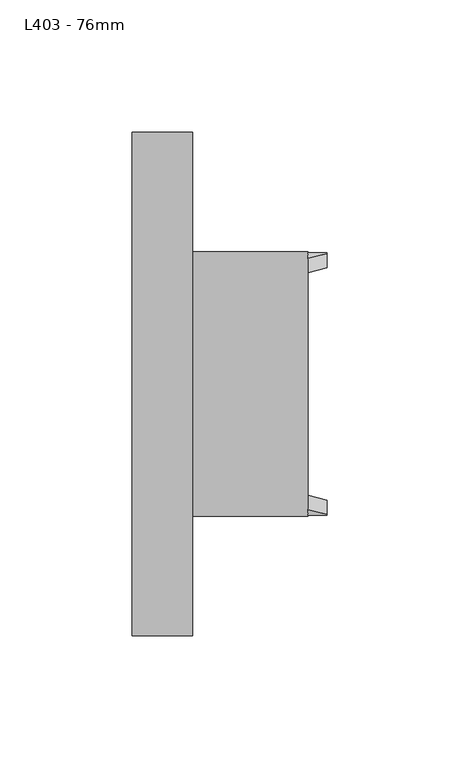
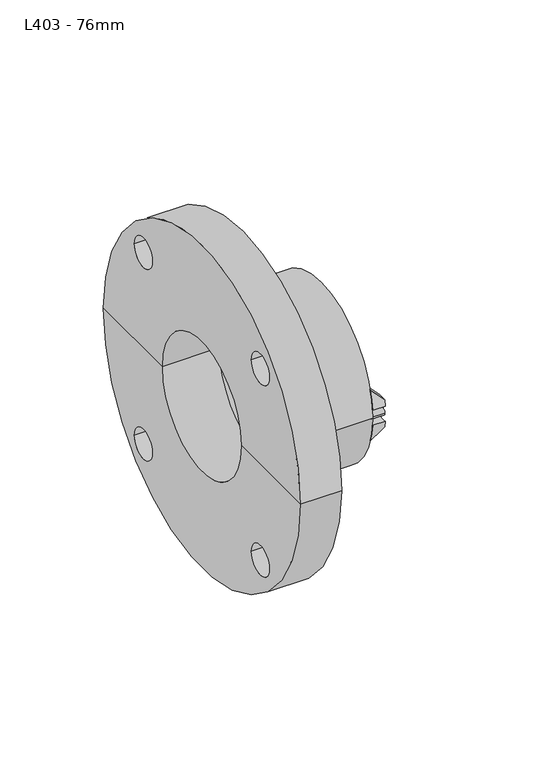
"""IFC4 building model written with IfcOpenShell, lengths in millimetres: pipe fitting geometry, Durapipe_PipeFitting_VulcatheneEnfusion_Flange_L40 : L403 - 76mm."""

from ifc_helpers import new_model, si_unit, point, frame, frame_2d, origin, place, context, project, spatial, polyline, circle_curve, ellipse_curve, trimmed, segment, composite_curve, outline, extrude, source, transform, mapped, element, save
from ifc_brep_helpers import plane_surface, cylinder_surface, revolved_surface, advanced_brep


def l403_76mm_9551e2b0(model_context):
    return source(origin(), model_context, "Body", "SolidModel", [
        advanced_brep(
        [(40.45, -44.5544662, -4.1787611), (40.45, -49.6544662, -4.410951), (40.45, -49.2136048, -7.94), (40.45, -44.0399693, -7.94), (33.35, -47.5396939, -15.0), (33.35, -49.6544662, -4.410951), (33.35, -44.5544662, -4.1787611), (33.35, -42.1611492, -15.0)],
        [
            (0, 1, circle_curve(frame((40.45, -47.3, 0.0), z_axis=(-1.0, 0.0, 0.0), x_axis=(0.0, 1.0, 0.0)), 5.0)),
            (1, 2, circle_curve(frame((40.45, 0.0, 0.0), z_axis=(1.0, 0.0, 0.0), x_axis=(0.0, 1.0, 0.0)), 49.85)),
            (2, 3),
            (3, 0, circle_curve(frame((40.45, 0.0, 0.0), z_axis=(-1.0, 0.0, 0.0), x_axis=(0.0, 1.0, 0.0)), 44.75)),
            (4, 5, circle_curve(frame((33.35, 0.0, 0.0), z_axis=(-1.0, 0.0, 0.0), x_axis=(0.0, 1.0, 0.0)), 49.85)),
            (5, 6, circle_curve(frame((33.35, -47.3, 0.0), z_axis=(1.0, 0.0, 0.0), x_axis=(0.0, 1.0, 0.0)), 5.0)),
            (6, 7, circle_curve(frame((33.35, 0.0, 0.0), z_axis=(1.0, 0.0, 0.0), x_axis=(0.0, 1.0, 0.0)), 44.75)),
            (7, 4),
            (6, 0),
            (3, 7, ellipse_curve(frame((48.4349858, 0.0, 0.0), z_axis=(0.7051064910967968, 0.0, -0.7091014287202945), x_axis=(-0.7091014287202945, 0.0, -0.7051064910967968)), 63.4655908, 44.75)),
            (4, 2, ellipse_curve(frame((48.4349858, 0.0, 0.0), z_axis=(-0.7051064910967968, 0.0, 0.7091014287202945), x_axis=(0.7091014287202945, 0.0, 0.7051064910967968)), 70.6985408, 49.85)),
            (1, 5),
        ],
        [
            plane_surface(frame((40.45, -47.5396939, -15.0), z_axis=(1.0, 0.0, 0.0), x_axis=(0.0, 1.0, 0.0))),
            plane_surface(frame((33.35, -47.5396939, -15.0), z_axis=(-1.0, 0.0, 0.0), x_axis=(0.0, -1.0, 0.0))),
            revolved_surface(polyline([(3.431444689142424, 44.75, 0.0), (93.43852691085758, 44.75, 0.0)]), (33.35, 0.0, 0.0), (-1.0, 0.0, 0.0)),
            cylinder_surface(frame((33.35, 0.0, 0.0), z_axis=(1.0, 0.0, 0.0), x_axis=(0.0, 1.0, 0.0)), 49.85),
            revolved_surface(polyline([(40.45, -42.3, 0.0), (33.35, -42.3, 0.0)]), (33.35, -47.3, 0.0), (1.0, 0.0, 0.0)),
            plane_surface(frame((33.35, 49.85, -15.0), z_axis=(0.7051064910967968, 0.0, -0.7091014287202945), x_axis=(0.0, -1.0, 0.0))),
        ],
        [
            (0, [[1, 2, 3, 4]]),
            (1, [[5, 6, 7, 8]]),
            (2, [[-7, 9, -4, 10]]),
            (3, [[-5, 11, -2, 12]]),
            (4, [[-1, -9, -6, -12]]),
            (5, [[-3, -11, -8, -10]]),
        ],
    ),
        advanced_brep(
        [(40.45, -49.6544662, 4.410951), (40.45, -44.5544662, 4.1787611), (40.45, -44.0399693, 7.94), (40.45, -49.2136048, 7.94), (33.35, -49.6544662, 4.410951), (33.35, -47.5396939, 15.0), (33.35, -42.1611492, 15.0), (33.35, -44.5544662, 4.1787611)],
        [
            (0, 1, circle_curve(frame((40.45, -47.3, 0.0), z_axis=(-1.0, 0.0, 0.0), x_axis=(0.0, 1.0, 0.0)), 5.0)),
            (1, 2, circle_curve(frame((40.45, 0.0, 0.0), z_axis=(-1.0, 0.0, 0.0), x_axis=(0.0, 1.0, 0.0)), 44.75)),
            (2, 3),
            (3, 0, circle_curve(frame((40.45, 0.0, 0.0), z_axis=(1.0, 0.0, 0.0), x_axis=(0.0, 1.0, 0.0)), 49.85)),
            (4, 5, circle_curve(frame((33.35, 0.0, 0.0), z_axis=(-1.0, 0.0, 0.0), x_axis=(0.0, 1.0, 0.0)), 49.85)),
            (5, 6),
            (6, 7, circle_curve(frame((33.35, 0.0, 0.0), z_axis=(1.0, 0.0, 0.0), x_axis=(0.0, 1.0, 0.0)), 44.75)),
            (7, 4, circle_curve(frame((33.35, -47.3, 0.0), z_axis=(1.0, 0.0, 0.0), x_axis=(0.0, 1.0, 0.0)), 5.0)),
            (6, 2, ellipse_curve(frame((48.4349858, 0.0, 0.0), z_axis=(0.7051064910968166, 0.0, 0.7091014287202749), x_axis=(-0.7091014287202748, 0.0, 0.7051064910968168)), 63.4655908, 44.75)),
            (1, 7),
            (4, 0),
            (3, 5, ellipse_curve(frame((48.4349858, 0.0, 0.0), z_axis=(-0.7051064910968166, 0.0, -0.7091014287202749), x_axis=(0.7091014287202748, 0.0, -0.7051064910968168)), 70.6985408, 49.85)),
        ],
        [
            plane_surface(frame((40.45, -47.5396939, -15.0), z_axis=(1.0, 0.0, 0.0), x_axis=(0.0, 1.0, 0.0))),
            plane_surface(frame((33.35, -47.5396939, -15.0), z_axis=(-1.0, 0.0, 0.0), x_axis=(0.0, -1.0, 0.0))),
            revolved_surface(polyline([(3.4314446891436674, 44.75, 0.0), (93.43852691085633, 44.75, 0.0)]), (33.35, 0.0, 0.0), (-1.0, 0.0, 0.0)),
            cylinder_surface(frame((33.35, 0.0, 0.0), z_axis=(1.0, 0.0, 0.0), x_axis=(0.0, 1.0, 0.0)), 49.85),
            revolved_surface(polyline([(40.45, -42.3, 0.0), (33.35, -42.3, 0.0)]), (33.35, -47.3, 0.0), (1.0, 0.0, 0.0)),
            plane_surface(frame((40.45, 49.85, 7.94), z_axis=(0.7051064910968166, 0.0, 0.7091014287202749), x_axis=(0.0, -1.0, 0.0))),
        ],
        [
            (0, [[1, 2, 3, 4]]),
            (1, [[5, 6, 7, 8]]),
            (2, [[-7, 9, -2, 10]]),
            (3, [[-5, 11, -4, 12]]),
            (4, [[-1, -11, -8, -10]]),
            (5, [[-3, -9, -6, -12]]),
        ],
    ),
        advanced_brep(
        [(40.45, 49.6544662, -4.410951), (40.45, 44.5544662, -4.1787611), (40.45, 44.0399693, -7.94), (40.45, 49.2136048, -7.94), (33.35, 49.6544662, -4.410951), (33.35, 47.5396939, -15.0), (33.35, 42.1611492, -15.0), (33.35, 44.5544662, -4.1787611)],
        [
            (0, 1, circle_curve(frame((40.45, 47.3, 0.0), z_axis=(-1.0, 0.0, 0.0), x_axis=(0.0, 1.0, 0.0)), 5.0)),
            (1, 2, circle_curve(frame((40.45, 0.0, 0.0), z_axis=(-1.0, 0.0, 0.0), x_axis=(0.0, 1.0, 0.0)), 44.75)),
            (2, 3),
            (3, 0, circle_curve(frame((40.45, 0.0, 0.0), z_axis=(1.0, 0.0, 0.0), x_axis=(0.0, 1.0, 0.0)), 49.85)),
            (4, 5, circle_curve(frame((33.35, 0.0, 0.0), z_axis=(-1.0, 0.0, 0.0), x_axis=(0.0, 1.0, 0.0)), 49.85)),
            (5, 6),
            (6, 7, circle_curve(frame((33.35, 0.0, 0.0), z_axis=(1.0, 0.0, 0.0), x_axis=(0.0, 1.0, 0.0)), 44.75)),
            (7, 4, circle_curve(frame((33.35, 47.3, 0.0), z_axis=(1.0, 0.0, 0.0), x_axis=(0.0, 1.0, 0.0)), 5.0)),
            (6, 2, ellipse_curve(frame((48.4349858, 0.0, 0.0), z_axis=(0.7051064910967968, 0.0, -0.7091014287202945), x_axis=(-0.7091014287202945, 0.0, -0.7051064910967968)), 63.4655908, 44.75)),
            (1, 7),
            (4, 0),
            (3, 5, ellipse_curve(frame((48.4349858, 0.0, 0.0), z_axis=(-0.7051064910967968, 0.0, 0.7091014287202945), x_axis=(0.7091014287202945, 0.0, 0.7051064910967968)), 70.6985408, 49.85)),
        ],
        [
            plane_surface(frame((40.45, -47.5396939, -15.0), z_axis=(1.0, 0.0, 0.0), x_axis=(0.0, 1.0, 0.0))),
            plane_surface(frame((33.35, -47.5396939, -15.0), z_axis=(-1.0, 0.0, 0.0), x_axis=(0.0, -1.0, 0.0))),
            revolved_surface(polyline([(3.431444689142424, 44.75, 0.0), (93.43852691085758, 44.75, 0.0)]), (33.35, 0.0, 0.0), (-1.0, 0.0, 0.0)),
            cylinder_surface(frame((33.35, 0.0, 0.0), z_axis=(1.0, 0.0, 0.0), x_axis=(0.0, 1.0, 0.0)), 49.85),
            revolved_surface(polyline([(40.45, 52.3, 0.0), (33.35, 52.3, 0.0)]), (33.35, 47.3, 0.0), (1.0, 0.0, 0.0)),
            plane_surface(frame((33.35, 49.85, -15.0), z_axis=(0.7051064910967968, 0.0, -0.7091014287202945), x_axis=(0.0, -1.0, 0.0))),
        ],
        [
            (0, [[1, 2, 3, 4]]),
            (1, [[5, 6, 7, 8]]),
            (2, [[-7, 9, -2, 10]]),
            (3, [[-5, 11, -4, 12]]),
            (4, [[-1, -11, -8, -10]]),
            (5, [[-3, -9, -6, -12]]),
        ],
    ),
        advanced_brep(
        [(40.45, 44.5544662, 4.1787611), (40.45, 49.6544662, 4.410951), (40.45, 49.2136048, 7.94), (40.45, 44.0399693, 7.94), (33.35, 47.5396939, 15.0), (33.35, 49.6544662, 4.410951), (33.35, 44.5544662, 4.1787611), (33.35, 42.1611492, 15.0)],
        [
            (0, 1, circle_curve(frame((40.45, 47.3, 0.0), z_axis=(-1.0, 0.0, 0.0), x_axis=(0.0, 1.0, 0.0)), 5.0)),
            (1, 2, circle_curve(frame((40.45, 0.0, 0.0), z_axis=(1.0, 0.0, 0.0), x_axis=(0.0, 1.0, 0.0)), 49.85)),
            (2, 3),
            (3, 0, circle_curve(frame((40.45, 0.0, 0.0), z_axis=(-1.0, 0.0, 0.0), x_axis=(0.0, 1.0, 0.0)), 44.75)),
            (4, 5, circle_curve(frame((33.35, 0.0, 0.0), z_axis=(-1.0, 0.0, 0.0), x_axis=(0.0, 1.0, 0.0)), 49.85)),
            (5, 6, circle_curve(frame((33.35, 47.3, 0.0), z_axis=(1.0, 0.0, 0.0), x_axis=(0.0, 1.0, 0.0)), 5.0)),
            (6, 7, circle_curve(frame((33.35, 0.0, 0.0), z_axis=(1.0, 0.0, 0.0), x_axis=(0.0, 1.0, 0.0)), 44.75)),
            (7, 4),
            (6, 0),
            (3, 7, ellipse_curve(frame((48.4349858, 0.0, 0.0), z_axis=(0.7051064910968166, 0.0, 0.7091014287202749), x_axis=(-0.7091014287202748, 0.0, 0.7051064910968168)), 63.4655908, 44.75)),
            (4, 2, ellipse_curve(frame((48.4349858, 0.0, 0.0), z_axis=(-0.7051064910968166, 0.0, -0.7091014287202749), x_axis=(0.7091014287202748, 0.0, -0.7051064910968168)), 70.6985408, 49.85)),
            (1, 5),
        ],
        [
            plane_surface(frame((40.45, -47.5396939, -15.0), z_axis=(1.0, 0.0, 0.0), x_axis=(0.0, 1.0, 0.0))),
            plane_surface(frame((33.35, -47.5396939, -15.0), z_axis=(-1.0, 0.0, 0.0), x_axis=(0.0, -1.0, 0.0))),
            revolved_surface(polyline([(3.4314446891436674, 44.75, 0.0), (93.43852691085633, 44.75, 0.0)]), (33.35, 0.0, 0.0), (-1.0, 0.0, 0.0)),
            cylinder_surface(frame((33.35, 0.0, 0.0), z_axis=(1.0, 0.0, 0.0), x_axis=(0.0, 1.0, 0.0)), 49.85),
            revolved_surface(polyline([(40.45, 52.3, 0.0), (33.35, 52.3, 0.0)]), (33.35, 47.3, 0.0), (1.0, 0.0, 0.0)),
            plane_surface(frame((40.45, 49.85, 7.94), z_axis=(0.7051064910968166, 0.0, 0.7091014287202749), x_axis=(0.0, -1.0, 0.0))),
        ],
        [
            (0, [[1, 2, 3, 4]]),
            (1, [[5, 6, 7, 8]]),
            (2, [[-7, 9, -4, 10]]),
            (3, [[-5, 11, -2, 12]]),
            (4, [[-1, -9, -6, -12]]),
            (5, [[-3, -11, -8, -10]]),
        ],
    ),
        extrude(outline(composite_curve([segment(trimmed(circle_curve(frame_2d((-47.3, 0.0)), 2.0), [point((-49.3, 0.0))], [point((-45.3, 0.0))], False, "CARTESIAN"), True, "CONTINUOUS"), segment(trimmed(circle_curve(frame_2d((-47.3, 0.0)), 2.0), [point((-45.3, 0.0))], [point((-49.3, 0.0))], False, "CARTESIAN"), True, "CONTINUOUS")], self_intersect=False)), frame((33.35, 0.0, 0.0), z_axis=(1.0, 0.0, 0.0), x_axis=(0.0, 1.0, 0.0)), (0.0, 0.0, 1.0), 7.1),
        extrude(outline(composite_curve([segment(trimmed(circle_curve(frame_2d((47.3, 0.0)), 2.0), [point((45.3, 0.0))], [point((49.3, 0.0))], False, "CARTESIAN"), True, "CONTINUOUS"), segment(trimmed(circle_curve(frame_2d((47.3, 0.0)), 2.0), [point((49.3, 0.0))], [point((45.3, 0.0))], False, "CARTESIAN"), True, "CONTINUOUS")], self_intersect=False)), frame((33.35, 0.0, 0.0), z_axis=(1.0, 0.0, 0.0), x_axis=(0.0, 1.0, 0.0)), (0.0, 0.0, 1.0), 7.1),
        advanced_brep(
        [(-33.35, -38.5, 0.0), (-33.35, 38.5, 0.0), (-33.35, 95.3, 0.0), (-33.35, -95.3, 0.0), (-33.35, -65.2685425, -56.5685425), (-33.35, -47.8685425, -56.5685425), (-33.35, 47.8685425, -56.5685425), (-33.35, 65.2685425, -56.5685425), (-33.35, 47.8685425, 56.5685425), (-33.35, 65.2685425, 56.5685425), (-33.35, -65.2685425, 56.5685425), (-33.35, -47.8685425, 56.5685425), (-1.65, -38.5, 0.0), (-1.65, 38.5, 0.0), (-1.65, -44.6, 0.0), (-1.65, 44.6, 0.0), (33.35, -44.6, 0.0), (33.35, 44.6, 0.0), (33.35, -50.0, 0.0), (33.35, 50.0, 0.0), (-10.35, -50.0, 0.0), (-10.35, 50.0, 0.0), (-10.35, -95.3, 0.0), (-10.35, 95.3, 0.0), (-10.35, -47.8685425, -56.5685425), (-10.35, -65.2685425, -56.5685425), (-10.35, 65.2685425, -56.5685425), (-10.35, 47.8685425, -56.5685425), (-10.35, 65.2685425, 56.5685425), (-10.35, 47.8685425, 56.5685425), (-10.35, -47.8685425, 56.5685425), (-10.35, -65.2685425, 56.5685425)],
        [
            (0, 1, circle_curve(frame((-33.35, 0.0, 0.0), z_axis=(1.0, 0.0, 0.0), x_axis=(0.0, 1.0, 0.0)), 38.5)),
            (1, 2),
            (2, 3, circle_curve(frame((-33.35, 0.0, 0.0), z_axis=(-1.0, 0.0, 0.0), x_axis=(0.0, 1.0, 0.0)), 95.3)),
            (3, 0),
            (4, 5, circle_curve(frame((-33.35, -56.5685425, -56.5685425), z_axis=(1.0, 0.0, 0.0), x_axis=(0.0, 1.0, 0.0)), 8.7)),
            (5, 4, circle_curve(frame((-33.35, -56.5685425, -56.5685425), z_axis=(1.0, 0.0, 0.0), x_axis=(0.0, 1.0, 0.0)), 8.7)),
            (6, 7, circle_curve(frame((-33.35, 56.5685425, -56.5685425), z_axis=(1.0, 0.0, 0.0), x_axis=(0.0, 1.0, 0.0)), 8.7)),
            (7, 6, circle_curve(frame((-33.35, 56.5685425, -56.5685425), z_axis=(1.0, 0.0, 0.0), x_axis=(0.0, 1.0, 0.0)), 8.7)),
            (1, 0, circle_curve(frame((-33.35, 0.0, 0.0), z_axis=(1.0, 0.0, 0.0), x_axis=(0.0, 1.0, 0.0)), 38.5)),
            (3, 2, circle_curve(frame((-33.35, 0.0, 0.0), z_axis=(-1.0, 0.0, 0.0), x_axis=(0.0, 1.0, 0.0)), 95.3)),
            (8, 9, circle_curve(frame((-33.35, 56.5685425, 56.5685425), z_axis=(1.0, 0.0, 0.0), x_axis=(0.0, 1.0, 0.0)), 8.7)),
            (9, 8, circle_curve(frame((-33.35, 56.5685425, 56.5685425), z_axis=(1.0, 0.0, 0.0), x_axis=(0.0, 1.0, 0.0)), 8.7)),
            (10, 11, circle_curve(frame((-33.35, -56.5685425, 56.5685425), z_axis=(1.0, 0.0, 0.0), x_axis=(0.0, 1.0, 0.0)), 8.7)),
            (11, 10, circle_curve(frame((-33.35, -56.5685425, 56.5685425), z_axis=(1.0, 0.0, 0.0), x_axis=(0.0, 1.0, 0.0)), 8.7)),
            (0, 12),
            (12, 13, circle_curve(frame((-1.65, 0.0, 0.0), z_axis=(1.0, 0.0, 0.0), x_axis=(0.0, 1.0, 0.0)), 38.5)),
            (13, 1),
            (13, 12, circle_curve(frame((-1.65, 0.0, 0.0), z_axis=(1.0, 0.0, 0.0), x_axis=(0.0, 1.0, 0.0)), 38.5)),
            (12, 14),
            (14, 15, circle_curve(frame((-1.65, 0.0, 0.0), z_axis=(1.0, 0.0, 0.0), x_axis=(0.0, 1.0, 0.0)), 44.6)),
            (15, 13),
            (15, 14, circle_curve(frame((-1.65, 0.0, 0.0), z_axis=(1.0, 0.0, 0.0), x_axis=(0.0, 1.0, 0.0)), 44.6)),
            (14, 16),
            (16, 17, circle_curve(frame((33.35, 0.0, 0.0), z_axis=(1.0, 0.0, 0.0), x_axis=(0.0, 1.0, 0.0)), 44.6)),
            (17, 15),
            (17, 16, circle_curve(frame((33.35, 0.0, 0.0), z_axis=(1.0, 0.0, 0.0), x_axis=(0.0, 1.0, 0.0)), 44.6)),
            (16, 18),
            (18, 19, circle_curve(frame((33.35, 0.0, 0.0), z_axis=(1.0, 0.0, 0.0), x_axis=(0.0, 1.0, 0.0)), 50.0)),
            (19, 17),
            (19, 18, circle_curve(frame((33.35, 0.0, 0.0), z_axis=(1.0, 0.0, 0.0), x_axis=(0.0, 1.0, 0.0)), 50.0)),
            (18, 20),
            (20, 21, circle_curve(frame((-10.35, 0.0, 0.0), z_axis=(1.0, 0.0, 0.0), x_axis=(0.0, 1.0, 0.0)), 50.0)),
            (21, 19),
            (21, 20, circle_curve(frame((-10.35, 0.0, 0.0), z_axis=(1.0, 0.0, 0.0), x_axis=(0.0, 1.0, 0.0)), 50.0)),
            (20, 22),
            (22, 23, circle_curve(frame((-10.35, 0.0, 0.0), z_axis=(1.0, 0.0, 0.0), x_axis=(0.0, 1.0, 0.0)), 95.3)),
            (23, 21),
            (24, 25, circle_curve(frame((-10.35, -56.5685425, -56.5685425), z_axis=(-1.0, 0.0, 0.0), x_axis=(0.0, 1.0, 0.0)), 8.7)),
            (25, 24, circle_curve(frame((-10.35, -56.5685425, -56.5685425), z_axis=(-1.0, 0.0, 0.0), x_axis=(0.0, 1.0, 0.0)), 8.7)),
            (26, 27, circle_curve(frame((-10.35, 56.5685425, -56.5685425), z_axis=(-1.0, 0.0, 0.0), x_axis=(0.0, 1.0, 0.0)), 8.7)),
            (27, 26, circle_curve(frame((-10.35, 56.5685425, -56.5685425), z_axis=(-1.0, 0.0, 0.0), x_axis=(0.0, 1.0, 0.0)), 8.7)),
            (23, 22, circle_curve(frame((-10.35, 0.0, 0.0), z_axis=(1.0, 0.0, 0.0), x_axis=(0.0, 1.0, 0.0)), 95.3)),
            (28, 29, circle_curve(frame((-10.35, 56.5685425, 56.5685425), z_axis=(-1.0, 0.0, 0.0), x_axis=(0.0, 1.0, 0.0)), 8.7)),
            (29, 28, circle_curve(frame((-10.35, 56.5685425, 56.5685425), z_axis=(-1.0, 0.0, 0.0), x_axis=(0.0, 1.0, 0.0)), 8.7)),
            (30, 31, circle_curve(frame((-10.35, -56.5685425, 56.5685425), z_axis=(-1.0, 0.0, 0.0), x_axis=(0.0, 1.0, 0.0)), 8.7)),
            (31, 30, circle_curve(frame((-10.35, -56.5685425, 56.5685425), z_axis=(-1.0, 0.0, 0.0), x_axis=(0.0, 1.0, 0.0)), 8.7)),
            (2, 23),
            (22, 3),
            (28, 9),
            (8, 29),
            (30, 11),
            (10, 31),
            (24, 5),
            (4, 25),
            (26, 7),
            (6, 27),
        ],
        [
            plane_surface(frame((-33.35, 0.0, 0.0), z_axis=(-1.0, 0.0, 0.0), x_axis=(0.0, 1.0, 0.0))),
            revolved_surface(polyline([(-33.34999999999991, 38.5, 0.0), (-1.650000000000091, 38.5, 0.0)]), (1575.8272424, 0.0, 0.0), (-1.0, 0.0, 0.0)),
            plane_surface(frame((-1.65, 0.0, 0.0), z_axis=(1.0, 0.0, 0.0), x_axis=(0.0, 1.0, 0.0))),
            revolved_surface(polyline([(-1.650000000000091, 44.6, 0.0), (33.34999999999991, 44.6, 0.0)]), (1575.8272424, 0.0, 0.0), (-1.0, 0.0, 0.0)),
            plane_surface(frame((33.35, 0.0, 0.0), z_axis=(1.0, 0.0, 0.0), x_axis=(0.0, 1.0, 0.0))),
            cylinder_surface(frame((1575.8272424, 0.0, 0.0), z_axis=(-1.0, 0.0, 0.0), x_axis=(0.0, 1.0, 0.0)), 50.0),
            plane_surface(frame((-10.35, 0.0, 0.0), z_axis=(1.0, 0.0, 0.0), x_axis=(0.0, 1.0, 0.0))),
            cylinder_surface(frame((1575.8272424, 0.0, 0.0), z_axis=(-1.0, 0.0, 0.0), x_axis=(0.0, 1.0, 0.0)), 95.3),
            revolved_surface(polyline([(-10.350000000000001, 65.2685425, 56.5685425), (-33.35, 65.2685425, 56.5685425)]), (-33.35, 56.5685425, 56.5685425), (1.0, 0.0, 0.0)),
            revolved_surface(polyline([(-10.35, -47.868542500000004, 56.5685425), (-33.35, -47.868542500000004, 56.5685425)]), (0.0, -56.5685425, 56.5685425), (1.0, 0.0, 0.0)),
            revolved_surface(polyline([(-10.35, -47.868542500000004, -56.5685425), (-33.35, -47.868542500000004, -56.5685425)]), (0.0, -56.5685425, -56.5685425), (1.0, 0.0, 0.0)),
            revolved_surface(polyline([(-10.35, 65.2685425, -56.5685425), (-33.35, 65.2685425, -56.5685425)]), (0.0, 56.5685425, -56.5685425), (1.0, 0.0, 0.0)),
        ],
        [
            (0, [[1, 2, 3, 4], [5, 6], [7, 8]]),
            (0, [[-2, 9, -4, 10], [11, 12], [13, 14]]),
            (1, [[-1, 15, 16, 17]]),
            (1, [[-9, -17, 18, -15]]),
            (2, [[-16, 19, 20, 21]]),
            (2, [[-18, -21, 22, -19]]),
            (3, [[-20, 23, 24, 25]]),
            (3, [[-22, -25, 26, -23]]),
            (4, [[-24, 27, 28, 29]]),
            (4, [[-26, -29, 30, -27]]),
            (5, [[-28, 31, 32, 33]]),
            (5, [[-30, -33, 34, -31]]),
            (6, [[-32, 35, 36, 37], [38, 39], [40, 41]]),
            (6, [[-34, -37, 42, -35], [43, 44], [45, 46]]),
            (7, [[-3, 47, -36, 48]]),
            (7, [[-10, -48, -42, -47]]),
            (8, [[49, -11, 50, -43]]),
            (8, [[-49, -44, -50, -12]]),
            (9, [[51, -13, 52, -45]]),
            (9, [[-51, -46, -52, -14]]),
            (10, [[53, -5, 54, -38]]),
            (10, [[-53, -39, -54, -6]]),
            (11, [[55, -7, 56, -40]]),
            (11, [[-55, -41, -56, -8]]),
        ],
    ),
    ])


if __name__ == "__main__":
    model = new_model("IFC4")
    model_context = context("Model", 3, world=origin())
    ifc_project = project(units=[si_unit("LENGTHUNIT", "METRE", prefix="MILLI")], contexts=[model_context])
    site = spatial("IfcSite", under=ifc_project)
    building = spatial("IfcBuilding", under=site)
    placement = place(None, origin())
    l403_76mm_shape = l403_76mm_9551e2b0(model_context)
    element("IfcPipeFitting", 1, ObjectType="Durapipe_PipeFitting_VulcatheneEnfusion_Flange_L40 : L403 - 76mm", at=placement, inside=building, context=model_context, shape_type="MappedRepresentation", body=[
        mapped(l403_76mm_shape, transform((0.0, 0.0, 0.0), x_axis=(1.0, 0.0, 0.0), y_axis=(0.0, 1.0, 0.0), z_axis=(0.0, 0.0, 1.0))),
    ])
    save(model, "model.ifc")
